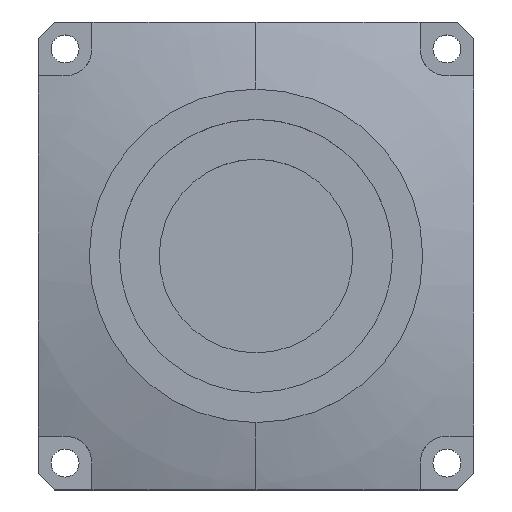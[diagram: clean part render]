
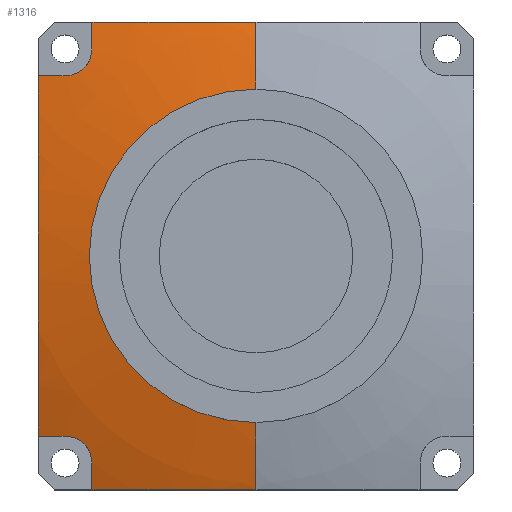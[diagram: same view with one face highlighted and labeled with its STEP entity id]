
A CAD part, top view. The second image highlights one B-rep face of the part: STEP entity #1316.
In plain terms, the highlighted spherical face has radius 80 mm.
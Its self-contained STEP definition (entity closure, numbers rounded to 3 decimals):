
#56=SPHERICAL_SURFACE('',#46979,80.);
#1316=ADVANCED_FACE('',(#3597),#56,.T.);
#3597=FACE_OUTER_BOUND('',#5934,.F.);
#5934=EDGE_LOOP('',(#9471,#9472,#9473,#9474,#9475,#9476,#9477,#9478,#9479,
#9480,#9481,#9482));
#9471=ORIENTED_EDGE('',*,*,#34937,.F.);
#9472=ORIENTED_EDGE('',*,*,#34935,.T.);
#9473=ORIENTED_EDGE('',*,*,#34926,.T.);
#9474=ORIENTED_EDGE('',*,*,#34927,.F.);
#9475=ORIENTED_EDGE('',*,*,#34928,.T.);
#9476=ORIENTED_EDGE('',*,*,#34934,.T.);
#9477=ORIENTED_EDGE('',*,*,#34929,.T.);
#9478=ORIENTED_EDGE('',*,*,#34930,.F.);
#9479=ORIENTED_EDGE('',*,*,#34931,.T.);
#9480=ORIENTED_EDGE('',*,*,#34933,.T.);
#9481=ORIENTED_EDGE('',*,*,#34936,.F.);
#9482=ORIENTED_EDGE('',*,*,#34932,.F.);
#23044=B_SPLINE_CURVE_WITH_KNOTS('',3,(#63798,#63799,#63800,#63801,#63802,
#63803),.UNSPECIFIED.,.F.,.F.,(4,1,1,4),(0.,0.389,0.611,
1.),.UNSPECIFIED.);
#23045=B_SPLINE_CURVE_WITH_KNOTS('',3,(#63804,#63805,#63806,#63807,#63808,
#63809,#63810,#63811,#63812),.UNSPECIFIED.,.F.,.F.,(4,1,1,1,1,1,4),(0.,0.196,
0.334,0.499,0.665,0.804,1.),
 .UNSPECIFIED.);
#23046=B_SPLINE_CURVE_WITH_KNOTS('',3,(#63813,#63814,#63815,#63816,#63817,
#63818),.UNSPECIFIED.,.F.,.F.,(4,1,1,4),(0.,0.389,0.611,
1.),.UNSPECIFIED.);
#23047=B_SPLINE_CURVE_WITH_KNOTS('',3,(#63819,#63820,#63821,#63822,#63823,
#63824),.UNSPECIFIED.,.F.,.F.,(4,1,1,4),(0.,0.389,0.611,
1.),.UNSPECIFIED.);
#23048=B_SPLINE_CURVE_WITH_KNOTS('',3,(#63825,#63826,#63827,#63828,#63829,
#63830,#63831,#63832,#63833),.UNSPECIFIED.,.F.,.F.,(4,1,1,1,1,1,4),(0.,0.196,
0.335,0.501,0.666,0.804,
1.),.UNSPECIFIED.);
#23049=B_SPLINE_CURVE_WITH_KNOTS('',3,(#63834,#63835,#63836,#63837,#63838,
#63839),.UNSPECIFIED.,.F.,.F.,(4,1,1,4),(0.,0.389,0.611,
1.),.UNSPECIFIED.);
#23050=B_SPLINE_CURVE_WITH_KNOTS('',3,(#63841,#63842,#63843,#63844,#63845,
#63846),.UNSPECIFIED.,.F.,.F.,(4,1,1,4),(0.,0.389,0.611,
1.),.UNSPECIFIED.);
#23051=B_SPLINE_CURVE_WITH_KNOTS('',3,(#63847,#63848,#63849,#63850,#63851,
#63852,#63853,#63854,#63855,#63856),.UNSPECIFIED.,.F.,.F.,(4,1,1,1,1,1,1,
4),(0.,0.167,0.286,0.429,0.571,
0.714,0.833,1.),.UNSPECIFIED.);
#23052=B_SPLINE_CURVE_WITH_KNOTS('',3,(#63857,#63858,#63859,#63860,#63861,
#63862),.UNSPECIFIED.,.F.,.F.,(4,1,1,4),(0.,0.389,0.611,
1.),.UNSPECIFIED.);
#34926=EDGE_CURVE('',#42442,#42441,#23044,.T.);
#34927=EDGE_CURVE('',#42440,#42441,#23045,.T.);
#34928=EDGE_CURVE('',#42440,#42439,#23046,.T.);
#34929=EDGE_CURVE('',#42438,#42437,#23047,.T.);
#34930=EDGE_CURVE('',#42436,#42437,#23048,.T.);
#34931=EDGE_CURVE('',#42436,#42435,#23049,.T.);
#34932=EDGE_CURVE('',#42434,#42433,#41181,.T.);
#34933=EDGE_CURVE('',#42435,#42432,#23050,.T.);
#34934=EDGE_CURVE('',#42439,#42438,#23051,.T.);
#34935=EDGE_CURVE('',#42431,#42442,#23052,.T.);
#34936=EDGE_CURVE('',#42433,#42432,#41182,.T.);
#34937=EDGE_CURVE('',#42431,#42434,#41183,.T.);
#41181=CIRCLE('',#46855,15.5);
#41182=CIRCLE('',#46856,80.);
#41183=CIRCLE('',#46857,80.);
#42431=VERTEX_POINT('',#63786);
#42432=VERTEX_POINT('',#63787);
#42433=VERTEX_POINT('',#63788);
#42434=VERTEX_POINT('',#63789);
#42435=VERTEX_POINT('',#63790);
#42436=VERTEX_POINT('',#63791);
#42437=VERTEX_POINT('',#63792);
#42438=VERTEX_POINT('',#63793);
#42439=VERTEX_POINT('',#63794);
#42440=VERTEX_POINT('',#63795);
#42441=VERTEX_POINT('',#63796);
#42442=VERTEX_POINT('',#63797);
#46855=AXIS2_PLACEMENT_3D('',#63840,#51190,#51191);
#46856=AXIS2_PLACEMENT_3D('',#63863,#51192,#51193);
#46857=AXIS2_PLACEMENT_3D('',#63864,#51194,#51195);
#46979=AXIS2_PLACEMENT_3D('',#64214,#51602,#51603);
#51190=DIRECTION('',(0.,0.,-1.));
#51191=DIRECTION('',(0.,-1.,0.));
#51192=DIRECTION('',(-1.,0.,0.));
#51193=DIRECTION('',(0.,0.194,0.981));
#51194=DIRECTION('',(-1.,0.,0.));
#51195=DIRECTION('',(0.,-0.272,0.962));
#51602=DIRECTION('',(0.,0.,-1.));
#51603=DIRECTION('',(0.,1.,0.));
#63786=CARTESIAN_POINT('',(50.,-21.75,-89.363));
#63787=CARTESIAN_POINT('',(50.,21.75,-89.363));
#63788=CARTESIAN_POINT('',(50.,15.5,-87.866));
#63789=CARTESIAN_POINT('',(50.,-15.5,-87.866));
#63790=CARTESIAN_POINT('',(34.75,21.75,-90.889));
#63791=CARTESIAN_POINT('',(34.75,19.25,-90.213));
#63792=CARTESIAN_POINT('',(32.25,16.75,-90.164));
#63793=CARTESIAN_POINT('',(29.75,16.75,-90.79));
#63794=CARTESIAN_POINT('',(29.75,-16.75,-90.79));
#63795=CARTESIAN_POINT('',(32.25,-16.75,-90.164));
#63796=CARTESIAN_POINT('',(34.75,-19.25,-90.213));
#63797=CARTESIAN_POINT('',(34.75,-21.75,-90.889));
#63798=CARTESIAN_POINT('',(34.75,-21.75,-90.889));
#63799=CARTESIAN_POINT('',(34.75,-21.427,-90.796));
#63800=CARTESIAN_POINT('',(34.75,-20.92,-90.653));
#63801=CARTESIAN_POINT('',(34.75,-20.086,-90.428));
#63802=CARTESIAN_POINT('',(34.75,-19.576,-90.295));
#63803=CARTESIAN_POINT('',(34.75,-19.25,-90.213));
#63804=CARTESIAN_POINT('',(32.25,-16.75,-90.164));
#63805=CARTESIAN_POINT('',(32.502,-16.75,-90.105));
#63806=CARTESIAN_POINT('',(32.934,-16.815,-90.021));
#63807=CARTESIAN_POINT('',(33.541,-17.081,-89.947));
#63808=CARTESIAN_POINT('',(34.039,-17.462,-89.927));
#63809=CARTESIAN_POINT('',(34.42,-17.96,-89.964));
#63810=CARTESIAN_POINT('',(34.685,-18.566,-90.055));
#63811=CARTESIAN_POINT('',(34.75,-18.999,-90.149));
#63812=CARTESIAN_POINT('',(34.75,-19.25,-90.213));
#63813=CARTESIAN_POINT('',(32.25,-16.75,-90.164));
#63814=CARTESIAN_POINT('',(31.925,-16.75,-90.239));
#63815=CARTESIAN_POINT('',(31.414,-16.75,-90.362));
#63816=CARTESIAN_POINT('',(30.581,-16.75,-90.57));
#63817=CARTESIAN_POINT('',(30.073,-16.75,-90.703));
#63818=CARTESIAN_POINT('',(29.75,-16.75,-90.79));
#63819=CARTESIAN_POINT('',(29.75,16.75,-90.79));
#63820=CARTESIAN_POINT('',(30.073,16.75,-90.703));
#63821=CARTESIAN_POINT('',(30.581,16.75,-90.57));
#63822=CARTESIAN_POINT('',(31.414,16.75,-90.362));
#63823=CARTESIAN_POINT('',(31.925,16.75,-90.239));
#63824=CARTESIAN_POINT('',(32.25,16.75,-90.164));
#63825=CARTESIAN_POINT('',(34.75,19.25,-90.213));
#63826=CARTESIAN_POINT('',(34.75,18.999,-90.149));
#63827=CARTESIAN_POINT('',(34.685,18.566,-90.055));
#63828=CARTESIAN_POINT('',(34.42,17.96,-89.964));
#63829=CARTESIAN_POINT('',(34.039,17.462,-89.927));
#63830=CARTESIAN_POINT('',(33.541,17.081,-89.947));
#63831=CARTESIAN_POINT('',(32.934,16.815,-90.021));
#63832=CARTESIAN_POINT('',(32.502,16.75,-90.105));
#63833=CARTESIAN_POINT('',(32.25,16.75,-90.164));
#63834=CARTESIAN_POINT('',(34.75,19.25,-90.213));
#63835=CARTESIAN_POINT('',(34.75,19.576,-90.295));
#63836=CARTESIAN_POINT('',(34.75,20.086,-90.428));
#63837=CARTESIAN_POINT('',(34.75,20.92,-90.653));
#63838=CARTESIAN_POINT('',(34.75,21.427,-90.796));
#63839=CARTESIAN_POINT('',(34.75,21.75,-90.889));
#63840=CARTESIAN_POINT('',(50.,0.,-87.866));
#63841=CARTESIAN_POINT('',(34.75,21.75,-90.889));
#63842=CARTESIAN_POINT('',(36.701,21.75,-90.495));
#63843=CARTESIAN_POINT('',(39.789,21.75,-89.994));
#63844=CARTESIAN_POINT('',(44.883,21.75,-89.485));
#63845=CARTESIAN_POINT('',(48.01,21.75,-89.363));
#63846=CARTESIAN_POINT('',(50.,21.75,-89.363));
#63847=CARTESIAN_POINT('',(29.75,-16.75,-90.79));
#63848=CARTESIAN_POINT('',(29.75,-14.919,-90.384));
#63849=CARTESIAN_POINT('',(29.75,-11.754,-89.802));
#63850=CARTESIAN_POINT('',(29.75,-6.963,-89.227));
#63851=CARTESIAN_POINT('',(29.75,-2.413,-88.943));
#63852=CARTESIAN_POINT('',(29.75,2.413,-88.943));
#63853=CARTESIAN_POINT('',(29.75,6.963,-89.227));
#63854=CARTESIAN_POINT('',(29.75,11.754,-89.802));
#63855=CARTESIAN_POINT('',(29.75,14.919,-90.384));
#63856=CARTESIAN_POINT('',(29.75,16.75,-90.79));
#63857=CARTESIAN_POINT('',(50.,-21.75,-89.363));
#63858=CARTESIAN_POINT('',(48.01,-21.75,-89.363));
#63859=CARTESIAN_POINT('',(44.883,-21.75,-89.485));
#63860=CARTESIAN_POINT('',(39.789,-21.75,-89.994));
#63861=CARTESIAN_POINT('',(36.701,-21.75,-90.495));
#63862=CARTESIAN_POINT('',(34.75,-21.75,-90.889));
#63863=CARTESIAN_POINT('',(50.,0.,-166.35));
#63864=CARTESIAN_POINT('',(50.,0.,-166.35));
#64214=CARTESIAN_POINT('',(50.,0.,-166.35));
